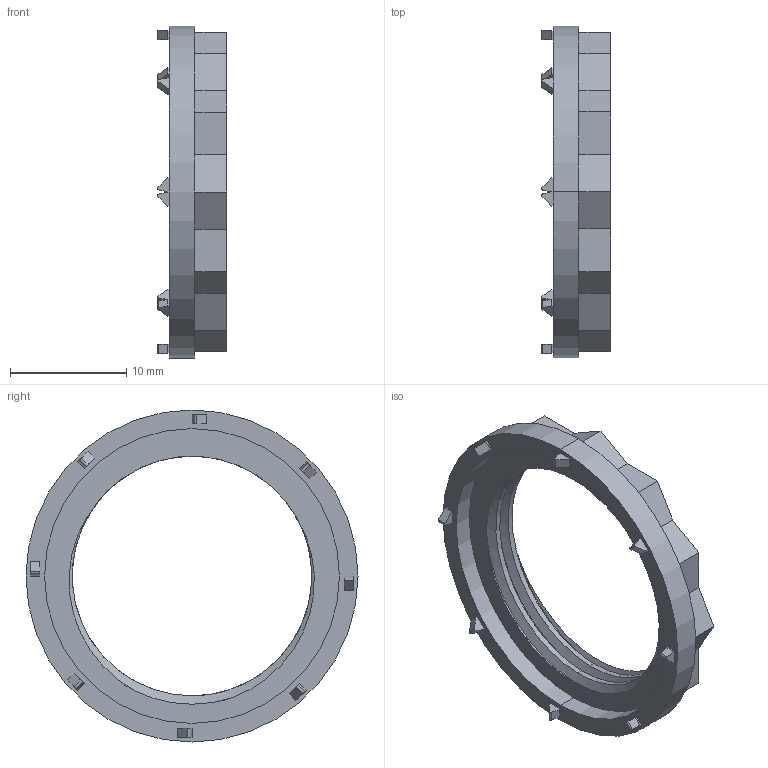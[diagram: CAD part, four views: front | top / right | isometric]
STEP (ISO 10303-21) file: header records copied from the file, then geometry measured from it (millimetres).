
FILE_DESCRIPTION((''),'2;1');
FILE_NAME('800F_AR','2009-03-09T',('abschul1'),('Rockwell Automation'),'PRO/ENGINEER BY PARAMETRIC TECHNOLOGY CORPORATION, 2004320','PRO/ENGINEER BY PARAMETRIC TECHNOLOGY CORPORATION, 2004320','');
FILE_SCHEMA(('CONFIG_CONTROL_DESIGN'));
Length unit declared in the file: millimetre
Products named in the file (1): 800F_AR
Bounding box: 5.95 x 28.6 x 28.6 mm (x, y, z)
Volume: 873.4 mm3; surface area: 1514.1 mm2
Topology: 1 solids, 1 shells, 95 faces, 249 edges, 166 vertices
Faces by surface type: plane 76, cylinder 16, bspline 3
Entity records: 3800 total; most frequent: CARTESIAN_POINT 1420, ORIENTED_EDGE 498, DIRECTION 443, EDGE_CURVE 249, VECTOR 207, LINE 207, VERTEX_POINT 166, AXIS2_PLACEMENT_3D 118
